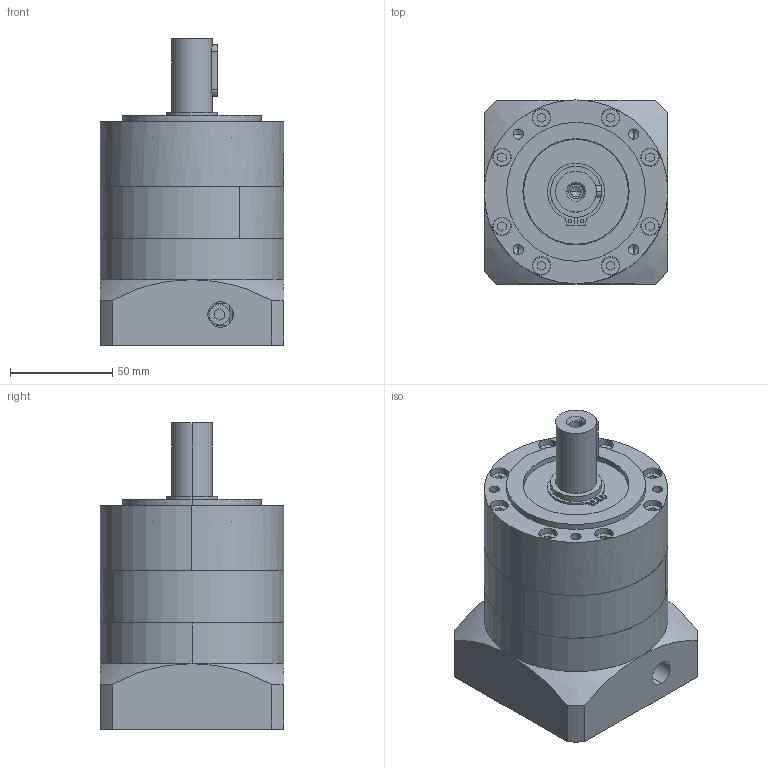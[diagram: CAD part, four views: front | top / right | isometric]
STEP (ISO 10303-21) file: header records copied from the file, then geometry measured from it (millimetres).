
FILE_DESCRIPTION (( 'STEP AP203' ), '1' );
FILE_NAME ('PLE090-L1-14-73-98.4.STEP', '2022-07-04T06:37:15', ( 'Windows User' ), ( 'P R C' ), 'SwSTEP 2.0', 'SolidWorks 2016', '' );
FILE_SCHEMA (( 'CONFIG_CONTROL_DESIGN' ));
Length unit declared in the file: millimetre
Products named in the file (8): 囀鞠褒蹟佪 M6x20; 邧埴瑩 6x6x25; 粣創-6007 35x62x14; PLE090蟀諉啣; PLE090奻屳唳; PLE090-L1-14-73-98.4; PLE090內齿圈-优化_一级内齿圈; PLE090狟屳唳14-73-98.4
Assembly tree (7 placements, depth 2):
  PLE090-L1-14-73-98.4
    PLE090內齿圈-优化_一级内齿圈
    PLE090狟屳唳14-73-98.4
    囀鞠褒蹟佪 M6x20
    邧埴瑩 6x6x25
    粣創-6007 35x62x14
    PLE090蟀諉啣
    PLE090奻屳唳
Bounding box: 90 x 90 x 150 mm (x, y, z)
Volume: 664610.8 mm3; surface area: 141749.2 mm2
Topology: 7 solids, 7 shells, 1111 faces, 3004 edges, 1982 vertices
Faces by surface type: plane 587, cylinder 202, bspline 158, sphere 88, torus 54, cone 22
Entity records: 44911 total; most frequent: CARTESIAN_POINT 17180, ORIENTED_EDGE 5972, DIRECTION 5005, EDGE_CURVE 2986, VERTEX_POINT 1982, AXIS2_PLACEMENT_3D 1752, LINE 1501, VECTOR 1501
